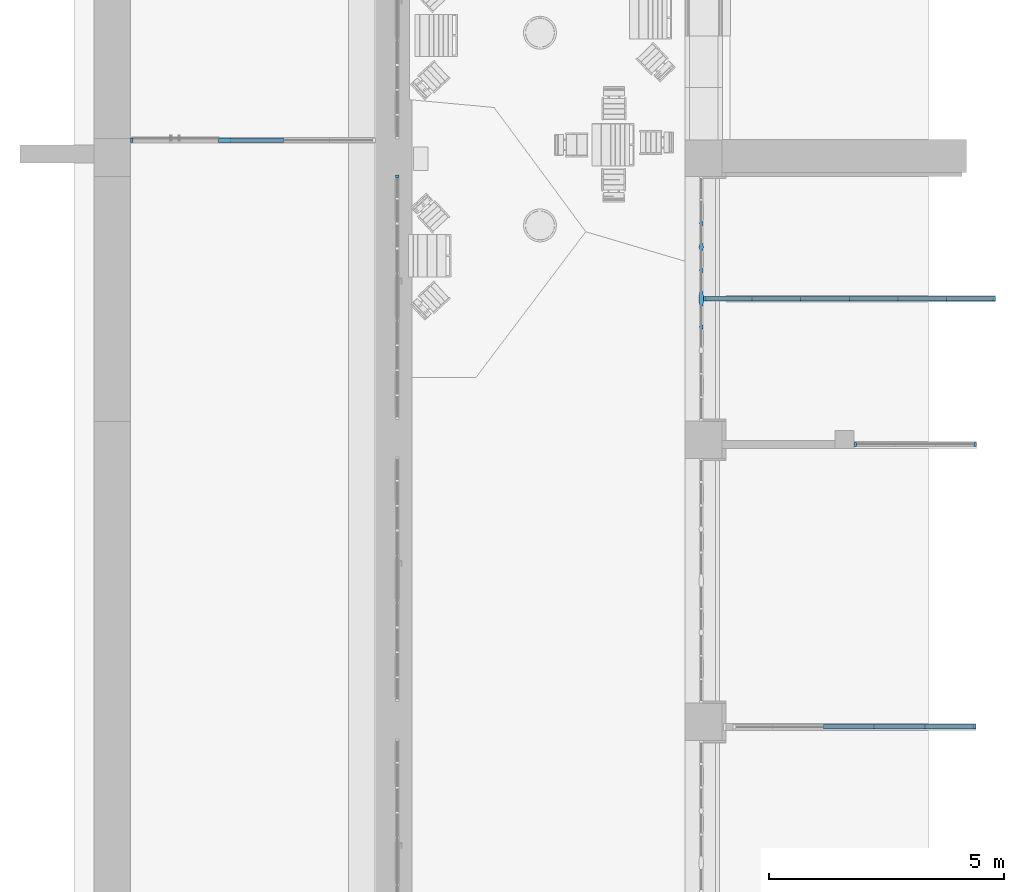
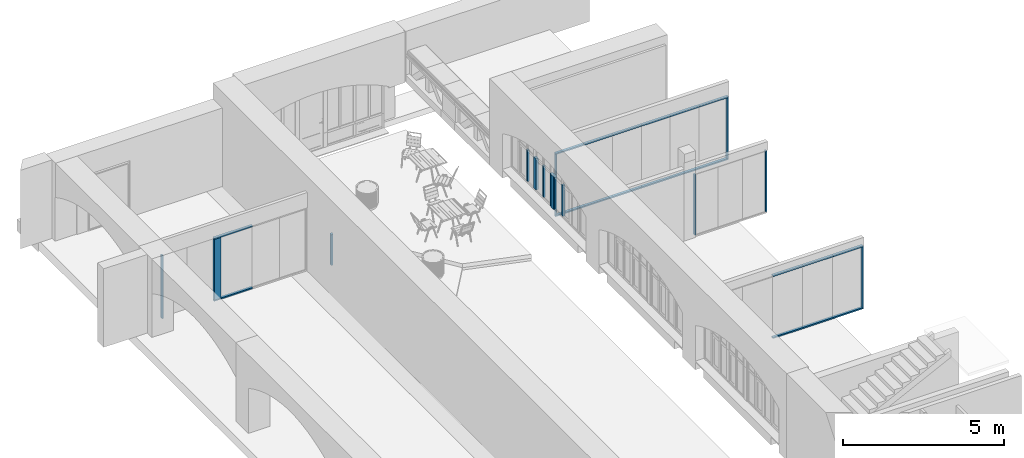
# One storey, part 13 of 88: 33 members, 6 elements without a shape of their own.
"""IFC2X3 building model written with IfcOpenShell, lengths in millimetres."""

from ifc_helpers import new_model, entity, si_unit, converted_unit, derived_unit, direction, frame, frame_2d, origin, origin_2d_with_axis, place, context, subcontext, project, spatial, polyline, rectangle, outline, extrude, source, transform, mapped, material, type_object, type_shapes, element, aggregate, save


model = new_model("IFC2X3")

# Units and contexts
model_context = context("Model", 3, precision=0.01, world=origin(), true_north=direction((6.123031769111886e-17, 1.0)))
body_context = subcontext(model_context, "Body", "Model", "MODEL_VIEW")
ifc_project = project(units=[si_unit("LENGTHUNIT", "METRE", prefix="MILLI"), si_unit("AREAUNIT", "SQUARE_METRE"), si_unit("VOLUMEUNIT", "CUBIC_METRE"), converted_unit("PLANEANGLEUNIT", "DEGREE", entity("IfcPlaneAngleMeasure", 0.017453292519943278), si_unit("PLANEANGLEUNIT", "RADIAN"), dimensions=[0, 0, 0, 0, 0, 0, 0]), si_unit("MASSUNIT", "GRAM", prefix="KILO"), derived_unit("MASSDENSITYUNIT", [(si_unit("MASSUNIT", "GRAM", prefix="KILO"), 1), (si_unit("LENGTHUNIT", "METRE"), -3)]), derived_unit("IONCONCENTRATIONUNIT", [(si_unit("MASSUNIT", "GRAM", prefix="KILO"), 1), (si_unit("LENGTHUNIT", "METRE"), -3)]), derived_unit("MOMENTOFINERTIAUNIT", [(si_unit("LENGTHUNIT", "METRE"), 4)]), si_unit("TIMEUNIT", "SECOND"), si_unit("FREQUENCYUNIT", "HERTZ"), si_unit("THERMODYNAMICTEMPERATUREUNIT", "DEGREE_CELSIUS"), derived_unit("THERMALTRANSMITTANCEUNIT", [(si_unit("MASSUNIT", "GRAM", prefix="KILO"), 1), (si_unit("THERMODYNAMICTEMPERATUREUNIT", "KELVIN"), -1), (si_unit("TIMEUNIT", "SECOND"), -3)]), derived_unit("THERMALCONDUCTANCEUNIT", [(si_unit("MASSUNIT", "GRAM", prefix="KILO"), 1), (si_unit("THERMODYNAMICTEMPERATUREUNIT", "KELVIN"), -1), (si_unit("TIMEUNIT", "SECOND"), -3), (si_unit("LENGTHUNIT", "METRE"), 1)]), derived_unit("VOLUMETRICFLOWRATEUNIT", [(si_unit("LENGTHUNIT", "METRE", prefix="DECI"), 3), (si_unit("TIMEUNIT", "SECOND"), -1)]), derived_unit("MASSFLOWRATEUNIT", [(si_unit("MASSUNIT", "GRAM", prefix="KILO"), 1), (si_unit("TIMEUNIT", "SECOND"), -1)]), derived_unit("ROTATIONALFREQUENCYUNIT", [(si_unit("TIMEUNIT", "SECOND"), -1)]), si_unit("ELECTRICCURRENTUNIT", "AMPERE"), si_unit("ELECTRICVOLTAGEUNIT", "VOLT"), si_unit("POWERUNIT", "WATT"), si_unit("FORCEUNIT", "NEWTON", prefix="KILO"), si_unit("ILLUMINANCEUNIT", "LUX"), si_unit("LUMINOUSFLUXUNIT", "LUMEN"), si_unit("LUMINOUSINTENSITYUNIT", "CANDELA"), si_unit("ENERGYUNIT", "JOULE"), derived_unit("USERDEFINED", [(si_unit("MASSUNIT", "GRAM", prefix="KILO"), -1), (si_unit("LENGTHUNIT", "METRE"), -2), (si_unit("TIMEUNIT", "SECOND"), 3), (si_unit("LUMINOUSFLUXUNIT", "LUMEN"), 1)]), derived_unit("USERDEFINED", [(si_unit("MASSUNIT", "GRAM", prefix="KILO"), 1), (si_unit("TIMEUNIT", "SECOND"), -3), (si_unit("LENGTHUNIT", "METRE"), 3), (si_unit("ELECTRICCURRENTUNIT", "AMPERE"), -2)]), derived_unit("SOUNDPOWERUNIT", [(si_unit("MASSUNIT", "GRAM", prefix="KILO"), 1), (si_unit("TIMEUNIT", "SECOND"), -3), (si_unit("LENGTHUNIT", "METRE"), 2)]), derived_unit("SOUNDPRESSUREUNIT", [(si_unit("MASSUNIT", "GRAM", prefix="KILO"), 1), (si_unit("LENGTHUNIT", "METRE"), -1), (si_unit("TIMEUNIT", "SECOND"), -2)]), derived_unit("LINEARVELOCITYUNIT", [(si_unit("LENGTHUNIT", "METRE"), 1), (si_unit("TIMEUNIT", "SECOND"), -1)]), si_unit("PRESSUREUNIT", "PASCAL"), derived_unit("USERDEFINED", [(si_unit("MASSUNIT", "GRAM", prefix="KILO"), 1), (si_unit("LENGTHUNIT", "METRE"), -2), (si_unit("TIMEUNIT", "SECOND"), -2)]), derived_unit("LINEARFORCEUNIT", [(si_unit("MASSUNIT", "GRAM", prefix="KILO"), 1), (si_unit("TIMEUNIT", "SECOND"), -2)]), derived_unit("PLANARFORCEUNIT", [(si_unit("MASSUNIT", "GRAM", prefix="KILO"), 1), (si_unit("LENGTHUNIT", "METRE"), -1), (si_unit("TIMEUNIT", "SECOND"), -2)]), derived_unit("SPECIFICHEATCAPACITYUNIT", [(si_unit("THERMODYNAMICTEMPERATUREUNIT", "KELVIN"), -1), (si_unit("LENGTHUNIT", "METRE"), 2), (si_unit("TIMEUNIT", "SECOND"), -2)]), derived_unit("HEATFLUXDENSITYUNIT", [(si_unit("MASSUNIT", "GRAM", prefix="KILO"), 1), (si_unit("TIMEUNIT", "SECOND"), -3)]), derived_unit("HEATINGVALUEUNIT", [(si_unit("LENGTHUNIT", "METRE"), 2), (si_unit("TIMEUNIT", "SECOND"), -2)]), derived_unit("VAPORPERMEABILITYUNIT", [(si_unit("LENGTHUNIT", "METRE"), -1), (si_unit("TIMEUNIT", "SECOND"), 1)]), derived_unit("DYNAMICVISCOSITYUNIT", [(si_unit("MASSUNIT", "GRAM", prefix="KILO"), 1), (si_unit("TIMEUNIT", "SECOND"), -1), (si_unit("LENGTHUNIT", "METRE"), -1)]), derived_unit("THERMALEXPANSIONCOEFFICIENTUNIT", [(si_unit("THERMODYNAMICTEMPERATUREUNIT", "KELVIN"), -1)]), derived_unit("MODULUSOFELASTICITYUNIT", [(si_unit("MASSUNIT", "GRAM", prefix="KILO"), 1), (si_unit("LENGTHUNIT", "METRE"), -1), (si_unit("TIMEUNIT", "SECOND"), -2)]), derived_unit("ISOTHERMALMOISTURECAPACITYUNIT", [(si_unit("MASSUNIT", "GRAM", prefix="KILO"), -1), (si_unit("LENGTHUNIT", "METRE"), 3)]), derived_unit("MOISTUREDIFFUSIVITYUNIT", [(si_unit("TIMEUNIT", "SECOND"), -1), (si_unit("LENGTHUNIT", "METRE"), 2)]), derived_unit("MASSPERLENGTHUNIT", [(si_unit("MASSUNIT", "GRAM", prefix="KILO"), 1), (si_unit("LENGTHUNIT", "METRE"), -1)]), derived_unit("THERMALRESISTANCEUNIT", [(si_unit("MASSUNIT", "GRAM", prefix="KILO"), -1), (si_unit("TIMEUNIT", "SECOND"), 3), (si_unit("THERMODYNAMICTEMPERATUREUNIT", "KELVIN"), 1)]), derived_unit("ACCELERATIONUNIT", [(si_unit("LENGTHUNIT", "METRE"), 1), (si_unit("TIMEUNIT", "SECOND"), -2)]), derived_unit("ANGULARVELOCITYUNIT", [(si_unit("TIMEUNIT", "SECOND"), -1), (si_unit("PLANEANGLEUNIT", "RADIAN"), 1)]), derived_unit("LINEARSTIFFNESSUNIT", [(si_unit("MASSUNIT", "GRAM", prefix="KILO"), 1), (si_unit("TIMEUNIT", "SECOND"), -2)]), derived_unit("WARPINGCONSTANTUNIT", [(si_unit("LENGTHUNIT", "METRE"), 6)]), derived_unit("LINEARMOMENTUNIT", [(si_unit("MASSUNIT", "GRAM", prefix="KILO"), 1), (si_unit("LENGTHUNIT", "METRE"), 1), (si_unit("TIMEUNIT", "SECOND"), -2)]), derived_unit("TORQUEUNIT", [(si_unit("MASSUNIT", "GRAM", prefix="KILO"), 1), (si_unit("LENGTHUNIT", "METRE"), 2), (si_unit("TIMEUNIT", "SECOND"), -2)])], contexts=[model_context])

# Site, building, storey
site_placement = place(None, origin())
site = spatial("IfcSite", under=ifc_project, at=site_placement, Name="Default", CompositionType="ELEMENT")
building_placement = place(site_placement, origin())
building = spatial("IfcBuilding", under=site, at=building_placement, Name="Eesti Rahvusraamatukogu hoone renoveerimise projekteerimistööd", CompositionType="ELEMENT")
storey_placement = place(building_placement, origin())
storey = spatial("IfcBuildingStorey", under=building, at=storey_placement, Name="1. korrus", CompositionType="ELEMENT", Elevation=0.0)

# Curtain wall, member
curtain_wall_type_1 = type_object("IfcCurtainWallType", Name="Curtain Wall:VLS Klaasvahesein profiilita 38db", PredefinedType="NOTDEFINED")
curtain_wall_1_placement = place(storey_placement, origin())
curtain_wall_1 = element("IfcCurtainWall", 1, at=curtain_wall_1_placement, inside=storey, type_object=curtain_wall_type_1, Name="Curtain Wall:VLS Klaasvahesein profiilita 38db", ObjectType="Curtain Wall:VLS Klaasvahesein profiilita 38db")
ifc_material_1 = material(Name="Aluminum")
member_type_1 = type_object("IfcMemberType", Name="Rectangular Mullion:50mm x 92mm", PredefinedType="MULLION", material=ifc_material_1)
shared_shape_1 = source(origin(), body_context, "Body", "SweptSolid", [
    extrude(rectangle(XDim=50.0, YDim=92.0, at=origin_2d_with_axis()), frame((-25.0, 0.0, -2400.0), z_axis=(0.0, 0.0, 1.0), x_axis=(-1.0, 0.0, 0.0)), (0.0, 0.0, 1.0), 2400.0000000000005),
])
type_shapes(member_type_1, [shared_shape_1])
member_1_placement = place(curtain_wall_1_placement, frame((-48579.967047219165, 48760.37627987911, 0.0), z_axis=(0.0, 0.0, -1.0), x_axis=(-1.0, 0.0, 0.0)))
member_1 = element("IfcMember", 2, at=member_1_placement, type_object=member_type_1, material=ifc_material_1, Name="Rectangular Mullion:50mm x 92mm", ObjectType="Rectangular Mullion:50mm x 92mm", context=body_context, shape_type="MappedRepresentation", body=[
    mapped(shared_shape_1, transform((0.0, 0.0, 0.0), scale=1.0)),
])

curtain_wall_2_placement = place(storey_placement, origin())
curtain_wall_2 = element("IfcCurtainWall", 3, at=curtain_wall_2_placement, inside=storey, type_object=curtain_wall_type_1, Name="Curtain Wall:VLS Klaasvahesein profiilita 38db", ObjectType="Curtain Wall:VLS Klaasvahesein profiilita 38db")
member_type_2 = type_object("IfcMemberType", Name="Rectangular Mullion:50mm x 92mm", PredefinedType="MULLION", material=ifc_material_1)
shared_shape_2 = source(origin(), body_context, "Body", "SweptSolid", [
    extrude(rectangle(XDim=50.0, YDim=92.0, at=origin_2d_with_axis()), frame((-25.0, 0.0, -2300.0), z_axis=(0.0, 0.0, 1.0), x_axis=(-1.0, 0.0, 0.0)), (0.0, 0.0, 1.0), 2300.0),
])
type_shapes(member_type_2, [shared_shape_2])
member_2_placement = place(curtain_wall_2_placement, frame((-33190.0, 42290.0, 4000.0), z_axis=(0.0, 0.0, 1.0), x_axis=(-1.0, 0.0, 0.0)))
member_2 = element("IfcMember", 4, at=member_2_placement, type_object=member_type_2, material=ifc_material_1, Name="Rectangular Mullion:50mm x 92mm", ObjectType="Rectangular Mullion:50mm x 92mm", context=body_context, shape_type="MappedRepresentation", body=[
    mapped(shared_shape_2, transform((0.0, 0.0, 0.0), scale=1.0)),
])

curtain_wall_3_placement = place(storey_placement, origin())
curtain_wall_3 = element("IfcCurtainWall", 5, at=curtain_wall_3_placement, inside=storey, type_object=curtain_wall_type_1, Name="Curtain Wall:VLS Klaasvahesein profiilita 38db", ObjectType="Curtain Wall:VLS Klaasvahesein profiilita 38db")
member_3_placement = place(curtain_wall_3_placement, frame((-36390.0, 45390.0, 4000.0), z_axis=(0.0, 0.0, 1.0), x_axis=(-1.0, 0.0, 0.0)))
member_3 = element("IfcMember", 6, at=member_3_placement, type_object=member_type_2, material=ifc_material_1, Name="Rectangular Mullion:50mm x 92mm", ObjectType="Rectangular Mullion:50mm x 92mm", context=body_context, shape_type="MappedRepresentation", body=[
    mapped(shared_shape_2, transform((0.0, 0.0, 0.0), scale=1.0)),
])

# Member
member_type_3 = type_object("IfcMemberType", Name="Rectangular Mullion:250mm x 92mm VASAK", PredefinedType="MULLION", material=ifc_material_1)
shared_shape_3 = source(origin(), body_context, "Body", "SweptSolid", [
    extrude(rectangle(XDim=250.00000000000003, YDim=92.0, at=origin_2d_with_axis()), frame((-100.0, 0.0, -2300.0), z_axis=(0.0, 0.0, 1.0), x_axis=(-1.0, 0.0, 0.0)), (0.0, 0.0, 1.0), 2300.0),
])
type_shapes(member_type_3, [shared_shape_3])
member_4_placement = place(curtain_wall_1_placement, frame((-46679.967047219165, 48760.3762798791, 50.0), z_axis=(0.0, 0.0, -1.0), x_axis=(-1.0, 0.0, 0.0)))
member_4 = element("IfcMember", 7, at=member_4_placement, type_object=member_type_3, material=ifc_material_1, Name="Rectangular Mullion:250mm x 92mm VASAK", ObjectType="Rectangular Mullion:250mm x 92mm VASAK", context=body_context, shape_type="MappedRepresentation", body=[
    mapped(shared_shape_3, transform((0.0, 0.0, 0.0), scale=1.0)),
])

member_type_4 = type_object("IfcMemberType", Name="Rectangular Mullion:50mm x 92mm", PredefinedType="MULLION", material=ifc_material_1)
shared_shape_4 = source(origin(), body_context, "Body", "SweptSolid", [
    extrude(rectangle(XDim=50.0, YDim=92.0, at=origin_2d_with_axis()), frame((-25.0, 0.0, -2300.0), z_axis=(0.0, 0.0, 1.0), x_axis=(-1.0, 0.0, 0.0)), (0.0, 0.0, 1.0), 2300.0),
])
type_shapes(member_type_4, [shared_shape_4])
member_5_placement = place(curtain_wall_2_placement, frame((-30590.0, 42290.0, 1700.0), z_axis=(0.0, 0.0, -1.0), x_axis=(1.0, 0.0, 0.0)))
member_5 = element("IfcMember", 8, at=member_5_placement, type_object=member_type_4, material=ifc_material_1, Name="Rectangular Mullion:50mm x 92mm", ObjectType="Rectangular Mullion:50mm x 92mm", context=body_context, shape_type="MappedRepresentation", body=[
    mapped(shared_shape_4, transform((0.0, 0.0, 0.0), scale=1.0)),
])

aggregate(curtain_wall_2, [member_5, member_2])

# Curtain wall, member
curtain_wall_4_placement = place(storey_placement, origin())
curtain_wall_4 = element("IfcCurtainWall", 9, at=curtain_wall_4_placement, inside=storey, type_object=curtain_wall_type_1, Name="Curtain Wall:VLS Klaasvahesein profiilita 38db", ObjectType="Curtain Wall:VLS Klaasvahesein profiilita 38db")
member_6_placement = place(curtain_wall_4_placement, frame((-30600.0, 36284.7418501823, 1700.0), z_axis=(0.0, 0.0, -1.0), x_axis=(1.0, 0.0, 0.0)))
member_6 = element("IfcMember", 10, at=member_6_placement, type_object=member_type_4, material=ifc_material_1, Name="Rectangular Mullion:50mm x 92mm", ObjectType="Rectangular Mullion:50mm x 92mm", context=body_context, shape_type="MappedRepresentation", body=[
    mapped(shared_shape_4, transform((0.0, 0.0, 0.0), scale=1.0)),
])

# Member
member_7_placement = place(curtain_wall_3_placement, frame((-30185.0, 45390.0, 1700.0), z_axis=(0.0, 0.0, -1.0), x_axis=(1.0, 0.0, 0.0)))
member_7 = element("IfcMember", 11, at=member_7_placement, type_object=member_type_4, material=ifc_material_1, Name="Rectangular Mullion:50mm x 92mm", ObjectType="Rectangular Mullion:50mm x 92mm", context=body_context, shape_type="MappedRepresentation", body=[
    mapped(shared_shape_4, transform((0.0, 0.0, 0.0), scale=1.0)),
])

member_type_5 = type_object("IfcMemberType", Name="Rectangular Mullion:50mm x 92mm", PredefinedType="MULLION", material=ifc_material_1)
shared_shape_5 = source(origin(), body_context, "Body", "SweptSolid", [
    extrude(rectangle(XDim=50.0, YDim=92.0, at=frame_2d((0.0, 3.552713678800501e-15), x_axis=(1.0, 0.0))), frame((-25.0, 0.0, -1377.7177765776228), z_axis=(0.0, 0.0, 1.0), x_axis=(-1.0, 0.0, 0.0)), (0.0, 0.0, 1.0), 1377.7177765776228),
])
type_shapes(member_type_5, [shared_shape_5])
member_8_placement = place(curtain_wall_1_placement, frame((-45327.24927064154, 48760.3762798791, 0.0), z_axis=(1.0, 0.0, 0.0), x_axis=(0.0, 0.0, -1.0)))
member_8 = element("IfcMember", 12, at=member_8_placement, type_object=member_type_5, material=ifc_material_1, Name="Rectangular Mullion:50mm x 92mm", ObjectType="Rectangular Mullion:50mm x 92mm", context=body_context, shape_type="MappedRepresentation", body=[
    mapped(shared_shape_5, transform((0.0, 0.0, 0.0), scale=1.0)),
])

member_type_6 = type_object("IfcMemberType", Name="Rectangular Mullion:50mm x 92mm", PredefinedType="MULLION", material=ifc_material_1)
shared_shape_6 = source(origin(), body_context, "Body", "SweptSolid", [
    extrude(rectangle(XDim=50.0, YDim=92.0, at=frame_2d((0.0, 3.552713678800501e-15), x_axis=(1.0, 0.0))), frame((-25.0, 0.0, -1377.717776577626), z_axis=(0.0, 0.0, 1.0), x_axis=(-1.0, 0.0, 0.0)), (0.0, 0.0, 1.0), 1377.7177765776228),
])
type_shapes(member_type_6, [shared_shape_6])
member_9_placement = place(curtain_wall_1_placement, frame((-46704.967047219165, 48760.3762798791, 2400.0), z_axis=(-1.0, 0.0, 0.0), x_axis=(0.0, 0.0, 1.0)))
member_9 = element("IfcMember", 13, at=member_9_placement, type_object=member_type_6, material=ifc_material_1, Name="Rectangular Mullion:50mm x 92mm", ObjectType="Rectangular Mullion:50mm x 92mm", context=body_context, shape_type="MappedRepresentation", body=[
    mapped(shared_shape_6, transform((0.0, 0.0, 0.0), scale=1.0)),
])

aggregate(curtain_wall_1, [member_1, member_8, member_9, member_4])

# Curtain wall, members
curtain_wall_type_2 = type_object("IfcCurtainWallType", Name="Curtain Wall:Ak-02", PredefinedType="NOTDEFINED")
curtain_wall_5_placement = place(storey_placement, origin())
curtain_wall_5 = element("IfcCurtainWall", 14, at=curtain_wall_5_placement, inside=storey, type_object=curtain_wall_type_2, Name="Curtain Wall:Ak-02", ObjectType="Curtain Wall:Ak-02")
ifc_material_2 = material(Name="LUMION_dark steel window frames")
member_type_7 = type_object("IfcMemberType", Name="Rectangular Mullion:NEW 80x70mm", PredefinedType="MULLION", material=ifc_material_2)
shared_shape_7 = source(origin(), body_context, "Body", "SweptSolid", [
    extrude(rectangle(XDim=80.0, YDim=70.0, at=frame_2d((0.0, 3.552713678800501e-15), x_axis=(1.0, 0.0))), frame((0.0, 0.0, -1190.0), z_axis=(0.0, 0.0, 1.0), x_axis=(-1.0, 0.0, 0.0)), (0.0, 0.0, 1.0), 1189.9999999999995),
])
type_shapes(member_type_7, [shared_shape_7])
member_10_placement = place(curtain_wall_5_placement, frame((-36440.0, 46990.0, 2040.0), z_axis=(0.0, 0.0, -1.0), x_axis=(0.0, -1.0, 0.0)))
member_10 = element("IfcMember", 15, at=member_10_placement, type_object=member_type_7, material=ifc_material_2, Name="Rectangular Mullion:NEW 80x70mm", ObjectType="Rectangular Mullion:NEW 80x70mm", context=body_context, shape_type="MappedRepresentation", body=[
    mapped(shared_shape_7, transform((0.0, 0.0, 0.0), scale=1.0)),
])
member_11_placement = place(curtain_wall_5_placement, frame((-36440.0, 45990.0, 2040.0), z_axis=(0.0, 0.0, -1.0), x_axis=(0.0, -1.0, 0.0)))
member_11 = element("IfcMember", 16, at=member_11_placement, type_object=member_type_7, material=ifc_material_2, Name="Rectangular Mullion:NEW 80x70mm", ObjectType="Rectangular Mullion:NEW 80x70mm", context=body_context, shape_type="MappedRepresentation", body=[
    mapped(shared_shape_7, transform((0.0, 0.0, 0.0), scale=1.0)),
])
member_12_placement = place(curtain_wall_5_placement, frame((-36440.0, 44790.0, 2040.0), z_axis=(0.0, 0.0, -1.0), x_axis=(0.0, -1.0, 0.0)))
member_12 = element("IfcMember", 17, at=member_12_placement, type_object=member_type_7, material=ifc_material_2, Name="Rectangular Mullion:NEW 80x70mm", ObjectType="Rectangular Mullion:NEW 80x70mm", context=body_context, shape_type="MappedRepresentation", body=[
    mapped(shared_shape_7, transform((0.0, 0.0, 0.0), scale=1.0)),
])
member_type_8 = type_object("IfcMemberType", Name="Rectangular Mullion:NEW 150x90mm", PredefinedType="MULLION", material=ifc_material_2)
shared_shape_8 = source(origin(), body_context, "Body", "SweptSolid", [
    extrude(outline(polyline([(20.0, -40.0), (75.0, -40.0), (75.0, 40.0), (20.0, 40.0), (20.0, 45.0), (-20.0, 45.0), (-20.0, 40.0), (-75.0, 40.0), (-75.0, -40.0), (-20.0, -40.0), (-20.0, -45.0), (20.0, -45.0), (20.0, -40.0)])), frame((0.0, 0.0, -1190.0), z_axis=(0.0, 0.0, 1.0), x_axis=(-1.0, 0.0, 0.0)), (0.0, 0.0, 1.0), 1189.9999999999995),
])
type_shapes(member_type_8, [shared_shape_8])
member_13_placement = place(curtain_wall_5_placement, frame((-36440.0, 46490.0, 2040.0), z_axis=(0.0, 0.0, -1.0), x_axis=(0.0, -1.0, 0.0)))
member_13 = element("IfcMember", 18, at=member_13_placement, type_object=member_type_8, material=ifc_material_2, Name="Rectangular Mullion:NEW 150x90mm", ObjectType="Rectangular Mullion:NEW 150x90mm", context=body_context, shape_type="MappedRepresentation", body=[
    mapped(shared_shape_8, transform((0.0, 0.0, 0.0), scale=1.0)),
])
member_type_9 = type_object("IfcMemberType", Name="Rectangular Mullion:NEW 300x100mm", PredefinedType="MULLION", material=ifc_material_2)
shared_shape_9 = source(origin(), body_context, "Body", "SweptSolid", [
    extrude(outline(polyline([(85.0, -35.0), (150.0, -35.0), (150.0, 35.0), (85.0, 35.0), (85.0, 50.0), (-85.0, 50.0), (-85.0, 35.0), (-150.0, 35.0), (-150.0, -35.0), (-85.0, -35.0), (-85.0, -50.0), (85.0, -50.0), (85.0, -35.0)])), frame((0.0, 0.0, -1250.0), z_axis=(0.0, 0.0, 1.0), x_axis=(-1.0, 0.0, 0.0)), (0.0, 0.0, 1.0), 1249.9999999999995),
])
type_shapes(member_type_9, [shared_shape_9])
member_14_placement = place(curtain_wall_5_placement, frame((-36440.0, 45390.0, 1980.0), z_axis=(0.0, 0.0, -1.0), x_axis=(0.0, -1.0, 0.0)))
member_14 = element("IfcMember", 19, at=member_14_placement, type_object=member_type_9, material=ifc_material_2, Name="Rectangular Mullion:NEW 300x100mm", ObjectType="Rectangular Mullion:NEW 300x100mm", context=body_context, shape_type="MappedRepresentation", body=[
    mapped(shared_shape_9, transform((0.0, 0.0, 0.0), scale=1.0)),
])
aggregate(curtain_wall_5, [member_10, member_13, member_11, member_14, member_12])

# Curtain wall, member
curtain_wall_type_3 = type_object("IfcCurtainWallType", Name="Curtain Wall:Ak-05", PredefinedType="NOTDEFINED")
curtain_wall_6_placement = place(storey_placement, origin())
curtain_wall_6 = element("IfcCurtainWall", 20, at=curtain_wall_6_placement, inside=storey, type_object=curtain_wall_type_3, Name="Curtain Wall:Ak-05", ObjectType="Curtain Wall:Ak-05")
member_type_10 = type_object("IfcMemberType", Name="Rectangular Mullion:NEW 60x70mm", PredefinedType="MULLION", material=ifc_material_2)
shared_shape_10 = source(origin(), body_context, "Body", "SweptSolid", [
    extrude(outline(polyline([(-608.8836344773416, -30.0), (590.8870214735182, -30.0), (590.8870214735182, 30.0), (-572.8904084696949, 30.0), (-608.8836344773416, -30.0)])), frame((-30.0, -35.0, -608.8836344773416), z_axis=(0.0, 1.0, 0.0), x_axis=(0.0, 0.0, -1.0)), (0.0, 0.0, 1.0), 70.00000000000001),
])
type_shapes(member_type_10, [shared_shape_10])
member_15_placement = place(curtain_wall_6_placement, frame((-42905.0, 48025.0, 1699.7706559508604), z_axis=(0.0, 0.0, 1.0), x_axis=(0.0, 1.0, 0.0)))
member_15 = element("IfcMember", 21, at=member_15_placement, type_object=member_type_10, material=ifc_material_2, Name="Rectangular Mullion:NEW 60x70mm", ObjectType="Rectangular Mullion:NEW 60x70mm", context=body_context, shape_type="MappedRepresentation", body=[
    mapped(shared_shape_10, transform((0.0, 0.0, 0.0), scale=1.0)),
])
aggregate(curtain_wall_6, [member_15])

# Member
member_type_11 = type_object("IfcMemberType", Name="Rectangular Mullion:50mm x 92mm", PredefinedType="MULLION", material=ifc_material_1)
shared_shape_11 = source(origin(), body_context, "Body", "SweptSolid", [
    extrude(rectangle(XDim=50.0, YDim=92.0, at=frame_2d((0.0, 3.552713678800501e-15), x_axis=(1.0, 0.0))), frame((-25.0, 0.0, -1080.0), z_axis=(0.0, 0.0, 1.0), x_axis=(-1.0, 0.0, 0.0)), (0.0, 0.0, 1.0), 1080.0000000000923),
])
type_shapes(member_type_11, [shared_shape_11])
member_16_placement = place(curtain_wall_4_placement, frame((-30600.0, 36284.7418501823, 4050.0), z_axis=(1.0, 0.0, 0.0), x_axis=(0.0, 0.0, 1.0)))
member_16 = element("IfcMember", 22, at=member_16_placement, type_object=member_type_11, material=ifc_material_1, Name="Rectangular Mullion:50mm x 92mm", ObjectType="Rectangular Mullion:50mm x 92mm", context=body_context, shape_type="MappedRepresentation", body=[
    mapped(shared_shape_11, transform((0.0, 0.0, 0.0), scale=1.0)),
])

member_type_12 = type_object("IfcMemberType", Name="Rectangular Mullion:50mm x 92mm", PredefinedType="MULLION", material=ifc_material_1)
shared_shape_12 = source(origin(), body_context, "Body", "SweptSolid", [
    extrude(rectangle(XDim=50.0, YDim=92.0, at=frame_2d((0.0, 3.552713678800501e-15), x_axis=(1.0, 0.0))), frame((-25.0, 0.0, -1080.0), z_axis=(0.0, 0.0, 1.0), x_axis=(-1.0, 0.0, 0.0)), (0.0, 0.0, 1.0), 1080.0000000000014),
])
type_shapes(member_type_12, [shared_shape_12])
member_17_placement = place(curtain_wall_4_placement, frame((-33840.0, 36284.741850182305, 1650.0), z_axis=(-1.0, 0.0, 0.0), x_axis=(0.0, 0.0, -1.0)))
member_17 = element("IfcMember", 23, at=member_17_placement, type_object=member_type_12, material=ifc_material_1, Name="Rectangular Mullion:50mm x 92mm", ObjectType="Rectangular Mullion:50mm x 92mm", context=body_context, shape_type="MappedRepresentation", body=[
    mapped(shared_shape_12, transform((0.0, 0.0, 0.0), scale=1.0)),
])

member_18_placement = place(curtain_wall_4_placement, frame((-32760.0, 36284.741850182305, 1650.0), z_axis=(-1.0, 0.0, 0.0), x_axis=(0.0, 0.0, -1.0)))
member_18 = element("IfcMember", 24, at=member_18_placement, type_object=member_type_12, material=ifc_material_1, Name="Rectangular Mullion:50mm x 92mm", ObjectType="Rectangular Mullion:50mm x 92mm", context=body_context, shape_type="MappedRepresentation", body=[
    mapped(shared_shape_12, transform((0.0, 0.0, 0.0), scale=1.0)),
])

member_type_13 = type_object("IfcMemberType", Name="Rectangular Mullion:50mm x 92mm", PredefinedType="MULLION", material=ifc_material_1)
shared_shape_13 = source(origin(), body_context, "Body", "SweptSolid", [
    extrude(rectangle(XDim=50.0, YDim=92.0, at=frame_2d((0.0, 3.552713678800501e-15), x_axis=(1.0, 0.0))), frame((-25.0, 0.0, -1080.0), z_axis=(0.0, 0.0, 1.0), x_axis=(-1.0, 0.0, 0.0)), (0.0, 0.0, 1.0), 1080.0000000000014),
])
type_shapes(member_type_13, [shared_shape_13])
member_19_placement = place(curtain_wall_4_placement, frame((-32760.0, 36284.741850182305, 4050.0), z_axis=(1.0, 0.0, 0.0), x_axis=(0.0, 0.0, 1.0)))
member_19 = element("IfcMember", 25, at=member_19_placement, type_object=member_type_13, material=ifc_material_1, Name="Rectangular Mullion:50mm x 92mm", ObjectType="Rectangular Mullion:50mm x 92mm", context=body_context, shape_type="MappedRepresentation", body=[
    mapped(shared_shape_13, transform((0.0, 0.0, 0.0), scale=1.0)),
])

member_20_placement = place(curtain_wall_4_placement, frame((-31680.0, 36284.741850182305, 4050.0), z_axis=(1.0, 0.0, 0.0), x_axis=(0.0, 0.0, 1.0)))
member_20 = element("IfcMember", 26, at=member_20_placement, type_object=member_type_13, material=ifc_material_1, Name="Rectangular Mullion:50mm x 92mm", ObjectType="Rectangular Mullion:50mm x 92mm", context=body_context, shape_type="MappedRepresentation", body=[
    mapped(shared_shape_13, transform((0.0, 0.0, 0.0), scale=1.0)),
])

member_type_14 = type_object("IfcMemberType", Name="Rectangular Mullion:50mm x 92mm", PredefinedType="MULLION", material=ifc_material_1)
shared_shape_14 = source(origin(), body_context, "Body", "SweptSolid", [
    extrude(rectangle(XDim=50.0, YDim=92.0, at=frame_2d((0.0, 3.552713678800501e-15), x_axis=(1.0, 0.0))), frame((-25.0, 0.0, -1080.0), z_axis=(0.0, 0.0, 1.0), x_axis=(-1.0, 0.0, 0.0)), (0.0, 0.0, 1.0), 1080.0000000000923),
])
type_shapes(member_type_14, [shared_shape_14])
member_21_placement = place(curtain_wall_4_placement, frame((-31680.0, 36284.741850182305, 1650.0), z_axis=(-1.0, 0.0, 0.0), x_axis=(0.0, 0.0, -1.0)))
member_21 = element("IfcMember", 27, at=member_21_placement, type_object=member_type_14, material=ifc_material_1, Name="Rectangular Mullion:50mm x 92mm", ObjectType="Rectangular Mullion:50mm x 92mm", context=body_context, shape_type="MappedRepresentation", body=[
    mapped(shared_shape_14, transform((0.0, 0.0, 0.0), scale=1.0)),
])

aggregate(curtain_wall_4, [member_16, member_6, member_17, member_19, member_18, member_20, member_21])

member_type_15 = type_object("IfcMemberType", Name="Rectangular Mullion:50mm x 92mm", PredefinedType="MULLION", material=ifc_material_1)
shared_shape_15 = source(origin(), body_context, "Body", "SweptSolid", [
    extrude(rectangle(XDim=50.0, YDim=92.0, at=frame_2d((0.0, 3.552713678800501e-15), x_axis=(1.0, 0.0))), frame((-25.0, 0.0, -1040.0), z_axis=(0.0, 0.0, 1.0), x_axis=(-1.0, 0.0, 0.0)), (0.0, 0.0, 1.0), 1039.9999999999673),
])
type_shapes(member_type_15, [shared_shape_15])
member_22_placement = place(curtain_wall_3_placement, frame((-30185.0, 45390.0, 4050.0), z_axis=(1.0, 0.0, 0.0), x_axis=(0.0, 0.0, 1.0)))
member_22 = element("IfcMember", 28, at=member_22_placement, type_object=member_type_15, material=ifc_material_1, Name="Rectangular Mullion:50mm x 92mm", ObjectType="Rectangular Mullion:50mm x 92mm", context=body_context, shape_type="MappedRepresentation", body=[
    mapped(shared_shape_15, transform((0.0, 0.0, 0.0), scale=1.0)),
])

member_type_16 = type_object("IfcMemberType", Name="Rectangular Mullion:50mm x 92mm", PredefinedType="MULLION", material=ifc_material_1)
shared_shape_16 = source(origin(), body_context, "Body", "SweptSolid", [
    extrude(rectangle(XDim=50.0, YDim=92.0, at=frame_2d((0.0, 3.552713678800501e-15), x_axis=(1.0, 0.0))), frame((-25.0, 0.0, -1033.0), z_axis=(0.0, 0.0, 1.0), x_axis=(-1.0, 0.0, 0.0)), (0.0, 0.0, 1.0), 1032.999999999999),
])
type_shapes(member_type_16, [shared_shape_16])
member_23_placement = place(curtain_wall_3_placement, frame((-36390.0, 45390.0, 1650.0), z_axis=(-1.0, 0.0, 0.0), x_axis=(0.0, 0.0, -1.0)))
member_23 = element("IfcMember", 29, at=member_23_placement, type_object=member_type_16, material=ifc_material_1, Name="Rectangular Mullion:50mm x 92mm", ObjectType="Rectangular Mullion:50mm x 92mm", context=body_context, shape_type="MappedRepresentation", body=[
    mapped(shared_shape_16, transform((0.0, 0.0, 0.0), scale=1.0)),
])

member_type_17 = type_object("IfcMemberType", Name="Rectangular Mullion:50mm x 92mm", PredefinedType="MULLION", material=ifc_material_1)
shared_shape_17 = source(origin(), body_context, "Body", "SweptSolid", [
    extrude(rectangle(XDim=50.0, YDim=92.0, at=frame_2d((0.0, 3.552713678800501e-15), x_axis=(1.0, 0.0))), frame((-25.0, 0.0, -1033.0), z_axis=(0.0, 0.0, 1.0), x_axis=(-1.0, 0.0, 0.0)), (0.0, 0.0, 1.0), 1033.0000000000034),
])
type_shapes(member_type_17, [shared_shape_17])
member_24_placement = place(curtain_wall_3_placement, frame((-35357.0, 45390.0, 4050.0), z_axis=(1.0, 0.0, 0.0), x_axis=(0.0, 0.0, 1.0)))
member_24 = element("IfcMember", 30, at=member_24_placement, type_object=member_type_17, material=ifc_material_1, Name="Rectangular Mullion:50mm x 92mm", ObjectType="Rectangular Mullion:50mm x 92mm", context=body_context, shape_type="MappedRepresentation", body=[
    mapped(shared_shape_17, transform((0.0, 0.0, 0.0), scale=1.0)),
])

member_type_18 = type_object("IfcMemberType", Name="Rectangular Mullion:50mm x 92mm", PredefinedType="MULLION", material=ifc_material_1)
shared_shape_18 = source(origin(), body_context, "Body", "SweptSolid", [
    extrude(rectangle(XDim=50.0, YDim=92.0, at=frame_2d((0.0, 3.552713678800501e-15), x_axis=(1.0, 0.0))), frame((-25.0, 0.0, -1033.0), z_axis=(0.0, 0.0, 1.0), x_axis=(-1.0, 0.0, 0.0)), (0.0, 0.0, 1.0), 1032.999999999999),
])
type_shapes(member_type_18, [shared_shape_18])
member_25_placement = place(curtain_wall_3_placement, frame((-35357.0, 45390.0, 1650.0), z_axis=(-1.0, 0.0, 0.0), x_axis=(0.0, 0.0, -1.0)))
member_25 = element("IfcMember", 31, at=member_25_placement, type_object=member_type_18, material=ifc_material_1, Name="Rectangular Mullion:50mm x 92mm", ObjectType="Rectangular Mullion:50mm x 92mm", context=body_context, shape_type="MappedRepresentation", body=[
    mapped(shared_shape_18, transform((0.0, 0.0, 0.0), scale=1.0)),
])

member_26_placement = place(curtain_wall_3_placement, frame((-34324.0, 45390.0, 1650.0), z_axis=(-1.0, 0.0, 0.0), x_axis=(0.0, 0.0, -1.0)))
member_26 = element("IfcMember", 32, at=member_26_placement, type_object=member_type_18, material=ifc_material_1, Name="Rectangular Mullion:50mm x 92mm", ObjectType="Rectangular Mullion:50mm x 92mm", context=body_context, shape_type="MappedRepresentation", body=[
    mapped(shared_shape_18, transform((0.0, 0.0, 0.0), scale=1.0)),
])

member_27_placement = place(curtain_wall_3_placement, frame((-33291.0, 45390.0, 1650.0), z_axis=(-1.0, 0.0, 0.0), x_axis=(0.0, 0.0, -1.0)))
member_27 = element("IfcMember", 33, at=member_27_placement, type_object=member_type_18, material=ifc_material_1, Name="Rectangular Mullion:50mm x 92mm", ObjectType="Rectangular Mullion:50mm x 92mm", context=body_context, shape_type="MappedRepresentation", body=[
    mapped(shared_shape_18, transform((0.0, 0.0, 0.0), scale=1.0)),
])

member_28_placement = place(curtain_wall_3_placement, frame((-32258.0, 45390.0, 1650.0), z_axis=(-1.0, 0.0, 0.0), x_axis=(0.0, 0.0, -1.0)))
member_28 = element("IfcMember", 34, at=member_28_placement, type_object=member_type_18, material=ifc_material_1, Name="Rectangular Mullion:50mm x 92mm", ObjectType="Rectangular Mullion:50mm x 92mm", context=body_context, shape_type="MappedRepresentation", body=[
    mapped(shared_shape_18, transform((0.0, 0.0, 0.0), scale=1.0)),
])

member_type_19 = type_object("IfcMemberType", Name="Rectangular Mullion:50mm x 92mm", PredefinedType="MULLION", material=ifc_material_1)
shared_shape_19 = source(origin(), body_context, "Body", "SweptSolid", [
    extrude(rectangle(XDim=50.0, YDim=92.0, at=frame_2d((0.0, 3.552713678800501e-15), x_axis=(1.0, 0.0))), frame((-25.0, 0.0, -1033.0), z_axis=(0.0, 0.0, 1.0), x_axis=(-1.0, 0.0, 0.0)), (0.0, 0.0, 1.0), 1032.9999999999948),
])
type_shapes(member_type_19, [shared_shape_19])
member_29_placement = place(curtain_wall_3_placement, frame((-34324.0, 45390.0, 4050.0), z_axis=(1.0, 0.0, 0.0), x_axis=(0.0, 0.0, 1.0)))
member_29 = element("IfcMember", 35, at=member_29_placement, type_object=member_type_19, material=ifc_material_1, Name="Rectangular Mullion:50mm x 92mm", ObjectType="Rectangular Mullion:50mm x 92mm", context=body_context, shape_type="MappedRepresentation", body=[
    mapped(shared_shape_19, transform((0.0, 0.0, 0.0), scale=1.0)),
])

member_30_placement = place(curtain_wall_3_placement, frame((-33291.0, 45390.0, 4050.0), z_axis=(1.0, 0.0, 0.0), x_axis=(0.0, 0.0, 1.0)))
member_30 = element("IfcMember", 36, at=member_30_placement, type_object=member_type_19, material=ifc_material_1, Name="Rectangular Mullion:50mm x 92mm", ObjectType="Rectangular Mullion:50mm x 92mm", context=body_context, shape_type="MappedRepresentation", body=[
    mapped(shared_shape_19, transform((0.0, 0.0, 0.0), scale=1.0)),
])

member_31_placement = place(curtain_wall_3_placement, frame((-32258.0, 45390.0, 4050.0), z_axis=(1.0, 0.0, 0.0), x_axis=(0.0, 0.0, 1.0)))
member_31 = element("IfcMember", 37, at=member_31_placement, type_object=member_type_19, material=ifc_material_1, Name="Rectangular Mullion:50mm x 92mm", ObjectType="Rectangular Mullion:50mm x 92mm", context=body_context, shape_type="MappedRepresentation", body=[
    mapped(shared_shape_19, transform((0.0, 0.0, 0.0), scale=1.0)),
])

member_32_placement = place(curtain_wall_3_placement, frame((-31225.0, 45390.0, 4050.0), z_axis=(1.0, 0.0, 0.0), x_axis=(0.0, 0.0, 1.0)))
member_32 = element("IfcMember", 38, at=member_32_placement, type_object=member_type_19, material=ifc_material_1, Name="Rectangular Mullion:50mm x 92mm", ObjectType="Rectangular Mullion:50mm x 92mm", context=body_context, shape_type="MappedRepresentation", body=[
    mapped(shared_shape_19, transform((0.0, 0.0, 0.0), scale=1.0)),
])

member_type_20 = type_object("IfcMemberType", Name="Rectangular Mullion:50mm x 92mm", PredefinedType="MULLION", material=ifc_material_1)
shared_shape_20 = source(origin(), body_context, "Body", "SweptSolid", [
    extrude(rectangle(XDim=50.0, YDim=92.0, at=frame_2d((0.0, 3.552713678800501e-15), x_axis=(1.0, 0.0))), frame((-25.0, 0.0, -1040.0), z_axis=(0.0, 0.0, 1.0), x_axis=(-1.0, 0.0, 0.0)), (0.0, 0.0, 1.0), 1039.9999999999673),
])
type_shapes(member_type_20, [shared_shape_20])
member_33_placement = place(curtain_wall_3_placement, frame((-31225.0, 45390.0, 1650.0), z_axis=(-1.0, 0.0, 0.0), x_axis=(0.0, 0.0, -1.0)))
member_33 = element("IfcMember", 39, at=member_33_placement, type_object=member_type_20, material=ifc_material_1, Name="Rectangular Mullion:50mm x 92mm", ObjectType="Rectangular Mullion:50mm x 92mm", context=body_context, shape_type="MappedRepresentation", body=[
    mapped(shared_shape_20, transform((0.0, 0.0, 0.0), scale=1.0)),
])

aggregate(curtain_wall_3, [member_22, member_23, member_7, member_3, member_24, member_25, member_29, member_26, member_30, member_27, member_31, member_28, member_32, member_33])

save(model, "model.ifc")
